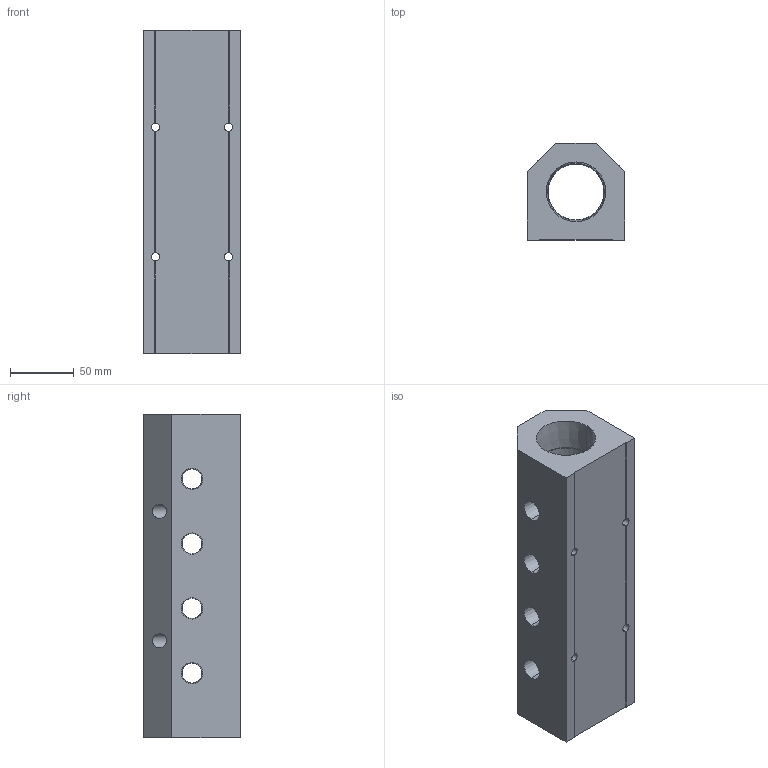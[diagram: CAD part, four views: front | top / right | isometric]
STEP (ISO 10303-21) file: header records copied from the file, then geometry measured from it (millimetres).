
FILE_DESCRIPTION (( 'STEP AP214' ), '1' );
FILE_NAME ('ALM4ACE-N6N24-254B.step', '2022-02-07T09:08:16', ( '' ), ( '' ), 'SwSTEP 2.0', 'SolidWorks 2020', '' );
FILE_SCHEMA (( 'AUTOMOTIVE_DESIGN' ));
Length unit declared in the file: millimetre
Products named in the file (1): ALM4ACE-N6N24-254B
Bounding box: 76.2 x 76.2 x 254 mm (x, y, z)
Volume: 898353.5 mm3; surface area: 124313.9 mm2
Topology: 1 solids, 1 shells, 336 faces, 900 edges, 592 vertices
Faces by surface type: plane 238, bspline 52, cone 28, cylinder 18
Entity records: 18079 total; most frequent: CARTESIAN_POINT 6817, ORIENTED_EDGE 1800, DIRECTION 1386, EDGE_CURVE 900, VECTOR 696, LINE 696, VERTEX_POINT 592, EDGE_LOOP 396
